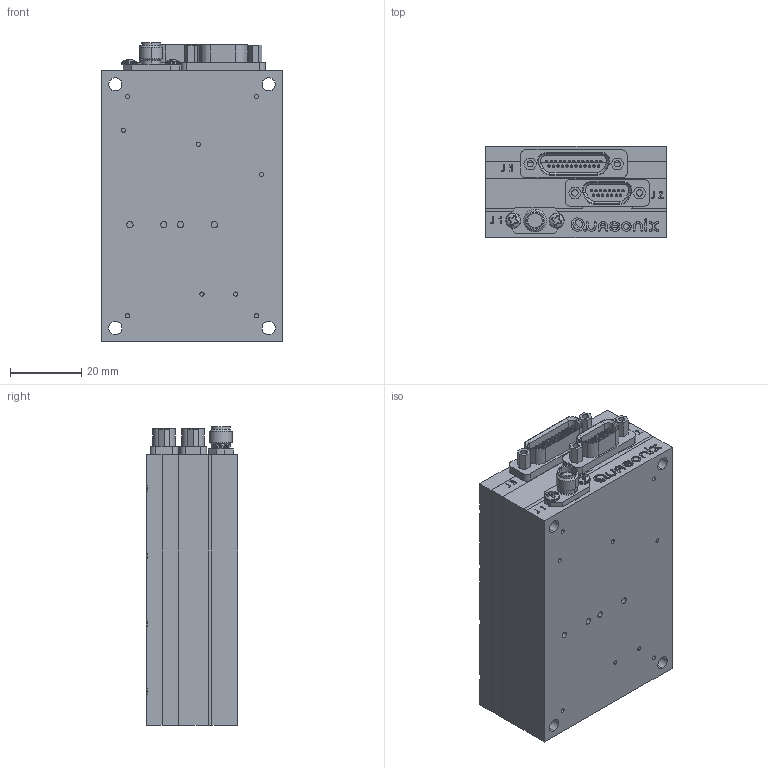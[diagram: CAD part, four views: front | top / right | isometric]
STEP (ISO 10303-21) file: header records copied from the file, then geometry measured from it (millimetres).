
FILE_DESCRIPTION (( 'STEP AP203' ), '1' );
FILE_NAME ('06AC_10-18-13.STEP', '2013-10-18T19:31:18', ( 'Quasonix' ), ( '' ), 'SwSTEP 2.0', 'SolidWorks 2012', '' );
FILE_SCHEMA (( 'CONFIG_CONTROL_DESIGN' ));
Length unit declared in the file: inch
Products named in the file (1): 06AC_10-18-13
Bounding box: 50.8 x 25.7 x 84.14 mm (x, y, z)
Surface area: 23088.5 mm2 (no closed solid volume)
Topology: 0 solids, 74 shells, 969 faces, 3138 edges, 2228 vertices
Faces by surface type: plane 482, cylinder 291, cone 100, bspline 82, torus 10, sphere 4
Entity records: 36493 total; most frequent: CARTESIAN_POINT 8976, DIRECTION 5722, ORIENTED_EDGE 5205, EDGE_CURVE 3126, VERTEX_POINT 2228, AXIS2_PLACEMENT_3D 2060, VECTOR 1602, LINE 1602
